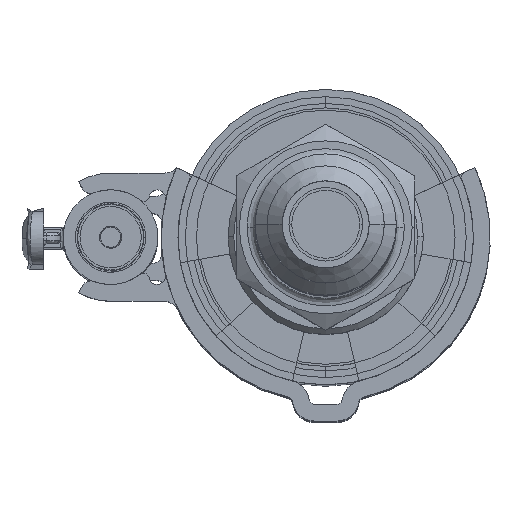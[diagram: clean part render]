
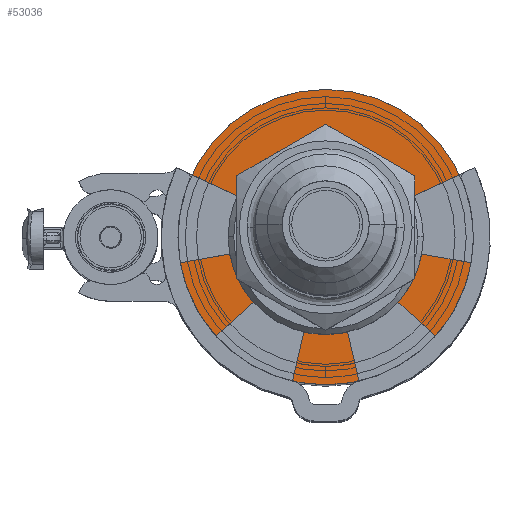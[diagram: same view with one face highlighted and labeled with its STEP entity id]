
A CAD part, top view. The second image highlights one B-rep face of the part: STEP entity #53036.
In plain terms, the highlighted planar face has unit normal (0, 0, 1) as drawn and (1, 0, 0) by its records, which use the part's own axes.
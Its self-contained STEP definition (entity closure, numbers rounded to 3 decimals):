
#52391 = VERTEX_POINT ( 'NONE', #85992 ) ;
#52393 = EDGE_CURVE ( 'NONE', #52391, #52411, #85986, .T. ) ;
#52411 = VERTEX_POINT ( 'NONE', #86024 ) ;
#52593 = VERTEX_POINT ( 'NONE', #86197 ) ;
#52631 = EDGE_CURVE ( 'NONE', #52593, #52660, #86293, .T. ) ;
#52660 = VERTEX_POINT ( 'NONE', #86353 ) ;
#53036 = ADVANCED_FACE ( 'NONE', ( #86829, #86806 ), #86843, .T. ) ;
#53040 = ORIENTED_EDGE ( 'NONE', *, *, #52393, .T. ) ;
#53042 = ORIENTED_EDGE ( 'NONE', *, *, #52631, .T. ) ;
#53043 = ORIENTED_EDGE ( 'NONE', *, *, #53067, .T. ) ;
#53065 = EDGE_CURVE ( 'NONE', #52411, #52391, #86820, .T. ) ;
#53067 = EDGE_CURVE ( 'NONE', #52660, #52593, #86824, .T. ) ;
#53069 = EDGE_LOOP ( 'NONE', ( #53040, #53185 ) ) ;
#53178 = EDGE_LOOP ( 'NONE', ( #53043, #53042 ) ) ;
#53185 = ORIENTED_EDGE ( 'NONE', *, *, #53065, .T. ) ;
#85974 = CARTESIAN_POINT ( 'NONE',  ( 245.72, 288.504, 0. ) ) ;
#85983 = AXIS2_PLACEMENT_3D ( 'NONE', #85974, #86032, #86031 ) ;
#85986 = CIRCLE ( 'NONE', #85983, 7.65 ) ;
#85992 = CARTESIAN_POINT ( 'NONE',  ( 245.72, 288.504, -7.65 ) ) ;
#86024 = CARTESIAN_POINT ( 'NONE',  ( 245.72, 288.504, 7.65 ) ) ;
#86031 = DIRECTION ( 'NONE',  ( 0., 0., -1. ) ) ;
#86032 = DIRECTION ( 'NONE',  ( -1., 0., 0. ) ) ;
#86197 = CARTESIAN_POINT ( 'NONE',  ( 245.72, 288.504, -13.25 ) ) ;
#86267 = CARTESIAN_POINT ( 'NONE',  ( 245.72, 288.504, 0. ) ) ;
#86280 = DIRECTION ( 'NONE',  ( 1., 0., 0. ) ) ;
#86290 = AXIS2_PLACEMENT_3D ( 'NONE', #86267, #86280, #86324 ) ;
#86293 = CIRCLE ( 'NONE', #86290, 13.25 ) ;
#86324 = DIRECTION ( 'NONE',  ( 0., 0., 1. ) ) ;
#86353 = CARTESIAN_POINT ( 'NONE',  ( 245.72, 288.504, 13.25 ) ) ;
#86806 = FACE_OUTER_BOUND ( 'NONE', #53178, .T. ) ;
#86809 = AXIS2_PLACEMENT_3D ( 'NONE', #86831, #86822, #86821 ) ;
#86820 = CIRCLE ( 'NONE', #86877, 7.65 ) ;
#86821 = DIRECTION ( 'NONE',  ( 0., 0., -1. ) ) ;
#86822 = DIRECTION ( 'NONE',  ( 1., 0., 0. ) ) ;
#86824 = CIRCLE ( 'NONE', #86880, 13.25 ) ;
#86829 = FACE_BOUND ( 'NONE', #53069, .T. ) ;
#86831 = CARTESIAN_POINT ( 'NONE',  ( 245.72, 277.504, 0. ) ) ;
#86843 = PLANE ( 'NONE',  #86809 ) ;
#86868 = DIRECTION ( 'NONE',  ( 0., 0., 1. ) ) ;
#86869 = DIRECTION ( 'NONE',  ( 1., 0., 0. ) ) ;
#86870 = CARTESIAN_POINT ( 'NONE',  ( 245.72, 288.504, 0. ) ) ;
#86874 = DIRECTION ( 'NONE',  ( 0., 0., -1. ) ) ;
#86875 = DIRECTION ( 'NONE',  ( -1., 0., 0. ) ) ;
#86876 = CARTESIAN_POINT ( 'NONE',  ( 245.72, 288.504, 0. ) ) ;
#86877 = AXIS2_PLACEMENT_3D ( 'NONE', #86876, #86875, #86874 ) ;
#86880 = AXIS2_PLACEMENT_3D ( 'NONE', #86870, #86869, #86868 ) ;
